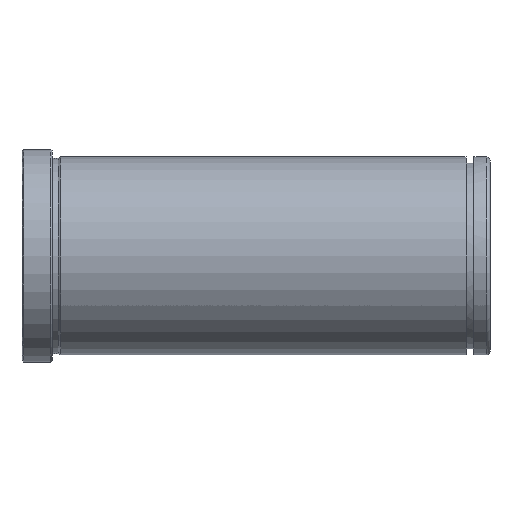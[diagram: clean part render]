
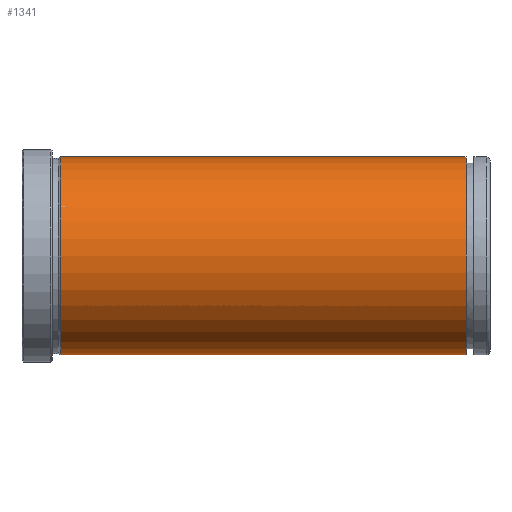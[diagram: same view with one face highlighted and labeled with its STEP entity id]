
A CAD part, front view. The second image highlights one B-rep face of the part: STEP entity #1341.
In plain terms, the highlighted cylindrical face has radius 33 mm (diameter 66 mm), a partial arc.
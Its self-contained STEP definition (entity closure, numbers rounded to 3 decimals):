
#1203=CARTESIAN_POINT('Vertex',(148.,0.,33.)) ;
#1206=CARTESIAN_POINT('Axis2P3D Location',(148.,0.,0.)) ;
#1210=CARTESIAN_POINT('Vertex',(148.,-33.,0.)) ;
#1213=CARTESIAN_POINT('Axis2P3D Location',(148.,0.,0.)) ;
#1217=CARTESIAN_POINT('Vertex',(148.,0.,-33.)) ;
#1247=CARTESIAN_POINT('Vertex',(12.866,0.,-33.)) ;
#1254=CARTESIAN_POINT('Vertex',(12.866,0.,33.)) ;
#1283=CARTESIAN_POINT('Axis2P3D Location',(12.866,0.,0.)) ;
#1287=CARTESIAN_POINT('Vertex',(12.866,-33.,0.)) ;
#1290=CARTESIAN_POINT('Axis2P3D Location',(12.866,0.,0.)) ;
#1309=CARTESIAN_POINT('Line Origine',(312.,0.,33.)) ;
#1314=CARTESIAN_POINT('Line Origine',(312.,0.,-33.)) ;
#1328=CARTESIAN_POINT('Axis2P3D Location',(312.,0.,0.)) ;
#1207=DIRECTION('Axis2P3D Direction',(1.,0.,-0.)) ;
#1214=DIRECTION('Axis2P3D Direction',(1.,0.,-0.)) ;
#1284=DIRECTION('Axis2P3D Direction',(1.,0.,-0.)) ;
#1291=DIRECTION('Axis2P3D Direction',(1.,0.,-0.)) ;
#1310=DIRECTION('Vector Direction',(-1.,0.,0.)) ;
#1315=DIRECTION('Vector Direction',(-1.,0.,0.)) ;
#1329=DIRECTION('Axis2P3D Direction',(-1.,-0.,-0.)) ;
#1330=DIRECTION('Axis2P3D XDirection',(0.,0.,-1.)) ;
#1208=AXIS2_PLACEMENT_3D('Circle Axis2P3D',#1206,#1207,$) ;
#1215=AXIS2_PLACEMENT_3D('Circle Axis2P3D',#1213,#1214,$) ;
#1285=AXIS2_PLACEMENT_3D('Circle Axis2P3D',#1283,#1284,$) ;
#1292=AXIS2_PLACEMENT_3D('Circle Axis2P3D',#1290,#1291,$) ;
#1331=AXIS2_PLACEMENT_3D('Cylinder Axis2P3D',#1328,#1329,#1330) ;
#1334=ORIENTED_EDGE('',*,*,#1318,.T.) ;
#1335=ORIENTED_EDGE('',*,*,#1219,.F.) ;
#1336=ORIENTED_EDGE('',*,*,#1212,.F.) ;
#1337=ORIENTED_EDGE('',*,*,#1313,.T.) ;
#1338=ORIENTED_EDGE('',*,*,#1294,.T.) ;
#1339=ORIENTED_EDGE('',*,*,#1289,.T.) ;
#1311=VECTOR('Line Direction',#1310,1.) ;
#1316=VECTOR('Line Direction',#1315,1.) ;
#1341=ADVANCED_FACE('553-52X156',(#1340),#1332,.T.) ;
#1209=CIRCLE('generated circle',#1208,33.) ;
#1216=CIRCLE('generated circle',#1215,33.) ;
#1286=CIRCLE('generated circle',#1285,33.) ;
#1293=CIRCLE('generated circle',#1292,33.) ;
#1332=CYLINDRICAL_SURFACE('generated cylinder',#1331,33.) ;
#1212=EDGE_CURVE('',#1204,#1211,#1209,.T.) ;
#1219=EDGE_CURVE('',#1211,#1218,#1216,.T.) ;
#1289=EDGE_CURVE('',#1288,#1248,#1286,.T.) ;
#1294=EDGE_CURVE('',#1255,#1288,#1293,.T.) ;
#1313=EDGE_CURVE('',#1204,#1255,#1312,.T.) ;
#1318=EDGE_CURVE('',#1248,#1218,#1317,.F.) ;
#1333=EDGE_LOOP('',(#1334,#1335,#1336,#1337,#1338,#1339)) ;
#1340=FACE_OUTER_BOUND('',#1333,.T.) ;
#1312=LINE('Line',#1309,#1311) ;
#1317=LINE('Line',#1314,#1316) ;
#1204=VERTEX_POINT('',#1203) ;
#1211=VERTEX_POINT('',#1210) ;
#1218=VERTEX_POINT('',#1217) ;
#1248=VERTEX_POINT('',#1247) ;
#1255=VERTEX_POINT('',#1254) ;
#1288=VERTEX_POINT('',#1287) ;
